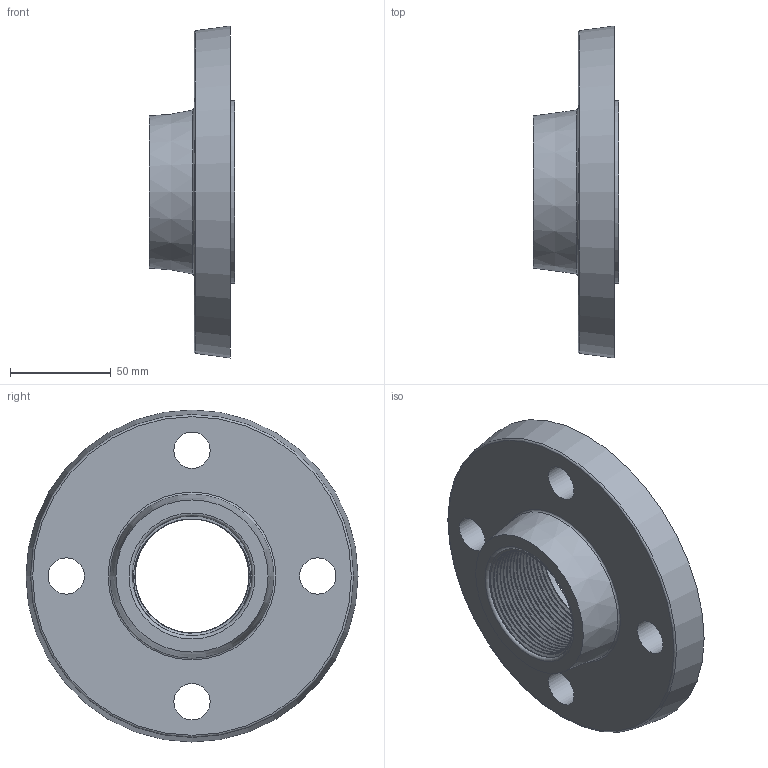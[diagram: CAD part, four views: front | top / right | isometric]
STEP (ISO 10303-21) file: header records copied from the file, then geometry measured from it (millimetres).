
FILE_DESCRIPTION(/* description */ (''),/* implementation_level */ '2;1');
FILE_NAME(/* name */ 'C:\Users\Gabriele\Desktop\disegni 3D\FF01\FF010630.ipt.stp',/* time_stamp */ '2017-01-25T17:53:52+01:00',/* author */ ('Gabriele'),/* organization */ (''),/* preprocessor_version */ 'ST-DEVELOPER v16.5',/* originating_system */ 'Autodesk Inventor 2017',/* authorisation */ '');
FILE_SCHEMA (('AUTOMOTIVE_DESIGN { 1 0 10303 214 3 1 1 }'));
Length unit declared in the file: millimetre
Products named in the file (1): FF010630
Bounding box: 42.5 x 165 x 165 mm (x, y, z)
Volume: 309244.5 mm3; surface area: 92616.4 mm2
Topology: 2 solids, 2 shells, 419 faces, 871 edges, 481 vertices
Faces by surface type: torus 159, cylinder 151, sphere 56, plane 45, bspline 6, cone 2
Full cylindrical faces by diameter (mm): 18 x4, 59.61 x2, 61 x1, 65.214 x1, 69.429 x1, 73.643 x1, 77.857 x1, 82.071 x1, 86.286 x1, 90.5 x1
Entity records: 18325 total; most frequent: CARTESIAN_POINT 9160, DIRECTION 2262, ORIENTED_EDGE 1688, AXIS2_PLACEMENT_3D 1039, EDGE_CURVE 844, CIRCLE 625, EDGE_LOOP 479, VERTEX_POINT 477
